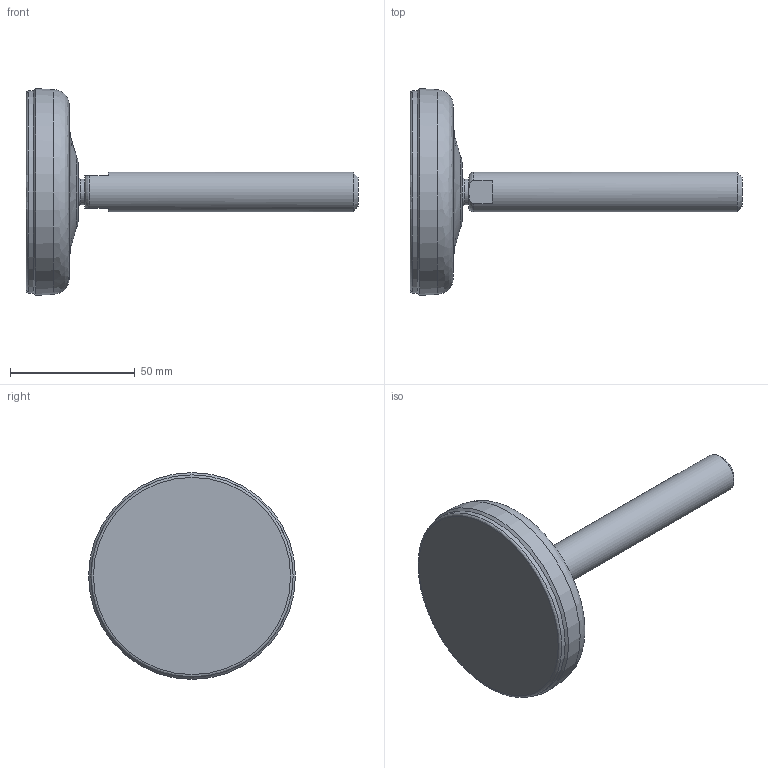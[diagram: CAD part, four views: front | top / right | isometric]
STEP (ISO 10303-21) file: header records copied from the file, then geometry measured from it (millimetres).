
FILE_DESCRIPTION(('STEP AP203'),'2;1');
FILE_NAME('18525.stp','2015-05-22T11:07:28',(''),(''),'2008.1.107','THINKDESIGN','');
FILE_SCHEMA(('CONFIG_CONTROL_DESIGN'));
Length unit declared in the file: millimetre
Bounding box: 133 x 82.88 x 82.88 mm (x, y, z)
Volume: 115076.6 mm3; surface area: 30451.1 mm2
Topology: 3 solids, 3 shells, 24 faces, 57 edges, 41 vertices
Faces by surface type: plane 12, bspline 9, cylinder 3
Full cylindrical faces by diameter (mm): 10.292 x1, 16 x1, 81 x1
Entity records: 1587 total; most frequent: CARTESIAN_POINT 921, DIRECTION 128, ORIENTED_EDGE 114, AXIS2_PLACEMENT_3D 58, EDGE_CURVE 57, CIRCLE 43, VERTEX_POINT 41, EDGE_LOOP 26
